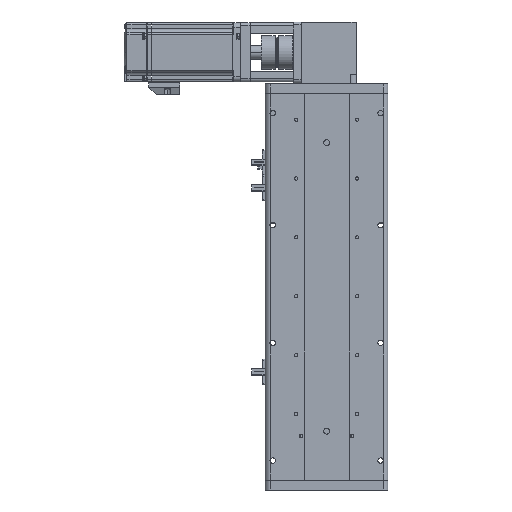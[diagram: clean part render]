
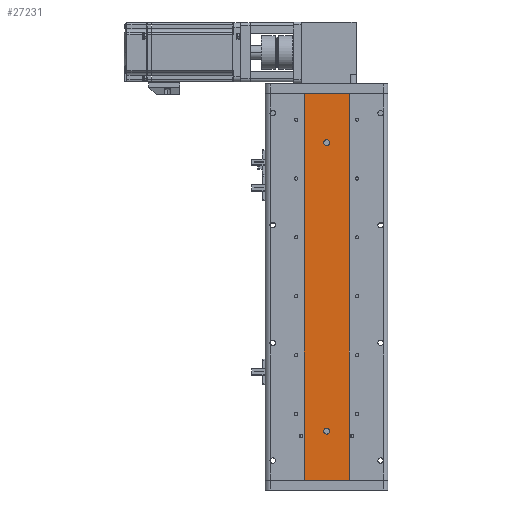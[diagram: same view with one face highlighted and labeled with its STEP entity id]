
A CAD part, front view. The second image highlights one B-rep face of the part: STEP entity #27231.
In plain terms, the highlighted planar face has unit normal (0, -1, 0).
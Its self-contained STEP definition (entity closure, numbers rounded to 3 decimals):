
#274 = DIRECTION ( 'NONE',  ( 1., 0., 0. ) ) ;
#965 = VERTEX_POINT ( 'NONE', #41127 ) ;
#995 = DIRECTION ( 'NONE',  ( 0., 0., -1. ) ) ;
#1417 = EDGE_CURVE ( 'NONE', #15296, #57287, #12944, .T. ) ;
#1902 = EDGE_CURVE ( 'NONE', #36633, #27045, #24102, .T. ) ;
#2088 = ORIENTED_EDGE ( 'NONE', *, *, #44402, .F. ) ;
#3191 = CIRCLE ( 'NONE', #7084, 3. ) ;
#3682 = CARTESIAN_POINT ( 'NONE',  ( 0., 1., 144. ) ) ;
#3843 = DIRECTION ( 'NONE',  ( 0., -1., 0. ) ) ;
#4233 = CARTESIAN_POINT ( 'NONE',  ( -23., 1., -197. ) ) ;
#4686 = CARTESIAN_POINT ( 'NONE',  ( -23., 1., 197. ) ) ;
#4693 = ORIENTED_EDGE ( 'NONE', *, *, #54168, .F. ) ;
#4807 = AXIS2_PLACEMENT_3D ( 'NONE', #37111, #24982, #56293 ) ;
#5234 = AXIS2_PLACEMENT_3D ( 'NONE', #54668, #27833, #995 ) ;
#7084 = AXIS2_PLACEMENT_3D ( 'NONE', #13649, #44985, #18151 ) ;
#8036 = CARTESIAN_POINT ( 'NONE',  ( 0., 1., -147. ) ) ;
#8156 = EDGE_CURVE ( 'NONE', #57349, #40915, #3191, .T. ) ;
#8257 = VECTOR ( 'NONE', #274, 1000. ) ;
#9984 = LINE ( 'NONE', #35410, #45738 ) ;
#11794 = VECTOR ( 'NONE', #33804, 1000. ) ;
#12520 = DIRECTION ( 'NONE',  ( 0., 0., -1. ) ) ;
#12944 = CIRCLE ( 'NONE', #19042, 3. ) ;
#13649 = CARTESIAN_POINT ( 'NONE',  ( 0., 1., -147. ) ) ;
#15200 = CIRCLE ( 'NONE', #5234, 3. ) ;
#15296 = VERTEX_POINT ( 'NONE', #42926 ) ;
#18151 = DIRECTION ( 'NONE',  ( 0., 0., -1. ) ) ;
#19042 = AXIS2_PLACEMENT_3D ( 'NONE', #30715, #3843, #35192 ) ;
#20143 = LINE ( 'NONE', #54367, #8257 ) ;
#20175 = EDGE_CURVE ( 'NONE', #36633, #965, #9984, .T. ) ;
#20430 = VERTEX_POINT ( 'NONE', #28737 ) ;
#20442 = PLANE ( 'NONE',  #4807 ) ;
#20948 = FACE_BOUND ( 'NONE', #53218, .T. ) ;
#22793 = ORIENTED_EDGE ( 'NONE', *, *, #1417, .F. ) ;
#23275 = CARTESIAN_POINT ( 'NONE',  ( 0., 1., -144. ) ) ;
#23985 = EDGE_CURVE ( 'NONE', #965, #20430, #47541, .T. ) ;
#24102 = LINE ( 'NONE', #49059, #47881 ) ;
#24214 = AXIS2_PLACEMENT_3D ( 'NONE', #8036, #39341, #12520 ) ;
#24982 = DIRECTION ( 'NONE',  ( 0., 1., 0. ) ) ;
#25886 = ORIENTED_EDGE ( 'NONE', *, *, #1902, .T. ) ;
#27045 = VERTEX_POINT ( 'NONE', #4233 ) ;
#27231 = ADVANCED_FACE ( 'NONE', ( #20948, #31523, #32904 ), #20442, .F. ) ;
#27833 = DIRECTION ( 'NONE',  ( 0., -1., 0. ) ) ;
#28737 = CARTESIAN_POINT ( 'NONE',  ( 23., 1., -197. ) ) ;
#30548 = CIRCLE ( 'NONE', #24214, 3. ) ;
#30715 = CARTESIAN_POINT ( 'NONE',  ( 0., 1., 147. ) ) ;
#31144 = CARTESIAN_POINT ( 'NONE',  ( 0., 1., -150. ) ) ;
#31187 = EDGE_CURVE ( 'NONE', #27045, #20430, #20143, .T. ) ;
#31476 = EDGE_LOOP ( 'NONE', ( #25886, #44922, #33642, #37356 ) ) ;
#31523 = FACE_BOUND ( 'NONE', #36514, .T. ) ;
#32904 = FACE_OUTER_BOUND ( 'NONE', #31476, .T. ) ;
#33642 = ORIENTED_EDGE ( 'NONE', *, *, #23985, .F. ) ;
#33804 = DIRECTION ( 'NONE',  ( 0., 0., -1. ) ) ;
#35192 = DIRECTION ( 'NONE',  ( 0., 0., -1. ) ) ;
#35410 = CARTESIAN_POINT ( 'NONE',  ( 23., 1., 197. ) ) ;
#36514 = EDGE_LOOP ( 'NONE', ( #41557, #4693 ) ) ;
#36633 = VERTEX_POINT ( 'NONE', #4686 ) ;
#37111 = CARTESIAN_POINT ( 'NONE',  ( 23., 1., 197.001 ) ) ;
#37356 = ORIENTED_EDGE ( 'NONE', *, *, #20175, .F. ) ;
#39341 = DIRECTION ( 'NONE',  ( 0., -1., 0. ) ) ;
#40915 = VERTEX_POINT ( 'NONE', #23275 ) ;
#41127 = CARTESIAN_POINT ( 'NONE',  ( 23., 1., 197. ) ) ;
#41557 = ORIENTED_EDGE ( 'NONE', *, *, #8156, .F. ) ;
#42926 = CARTESIAN_POINT ( 'NONE',  ( 0., 1., 150. ) ) ;
#44402 = EDGE_CURVE ( 'NONE', #57287, #15296, #15200, .T. ) ;
#44922 = ORIENTED_EDGE ( 'NONE', *, *, #31187, .T. ) ;
#44985 = DIRECTION ( 'NONE',  ( 0., -1., 0. ) ) ;
#45738 = VECTOR ( 'NONE', #48710, 1000. ) ;
#47541 = LINE ( 'NONE', #51635, #11794 ) ;
#47881 = VECTOR ( 'NONE', #58057, 1000. ) ;
#48710 = DIRECTION ( 'NONE',  ( 1., 0., 0. ) ) ;
#49059 = CARTESIAN_POINT ( 'NONE',  ( -23., 1., 197.001 ) ) ;
#51635 = CARTESIAN_POINT ( 'NONE',  ( 23., 1., 197.001 ) ) ;
#53218 = EDGE_LOOP ( 'NONE', ( #2088, #22793 ) ) ;
#54168 = EDGE_CURVE ( 'NONE', #40915, #57349, #30548, .T. ) ;
#54367 = CARTESIAN_POINT ( 'NONE',  ( 23., 1., -197. ) ) ;
#54668 = CARTESIAN_POINT ( 'NONE',  ( 0., 1., 147. ) ) ;
#56293 = DIRECTION ( 'NONE',  ( 0., 0., 1. ) ) ;
#57287 = VERTEX_POINT ( 'NONE', #3682 ) ;
#57349 = VERTEX_POINT ( 'NONE', #31144 ) ;
#58057 = DIRECTION ( 'NONE',  ( 0., 0., -1. ) ) ;
